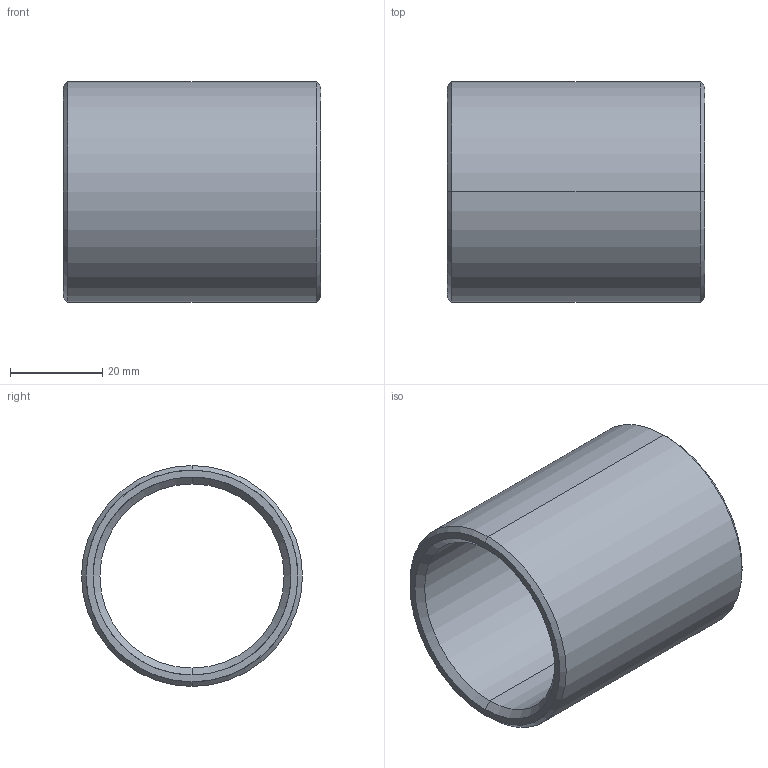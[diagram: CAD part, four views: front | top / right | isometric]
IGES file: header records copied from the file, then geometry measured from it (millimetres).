
Start section: START RECORD GO HERE.
Global section: file name: 352-40X56.igs; native system: DASSAULT SYSTEMES CATIA V5 R20 - www.3ds.com; preprocessor: CATIA Version 5 Release 20 ; author: Utente; organization: NB04-ASUS; date: 20210414.165513; units: millimetre
Bounding box: 56 x 48 x 48 mm (x, y, z)
Surface area: 16247.4 mm2 (no closed solid volume)
Topology: 0 solids, 0 shells, 14 faces, 88 edges, 88 vertices
Faces by surface type: revolution 12, plane 2
